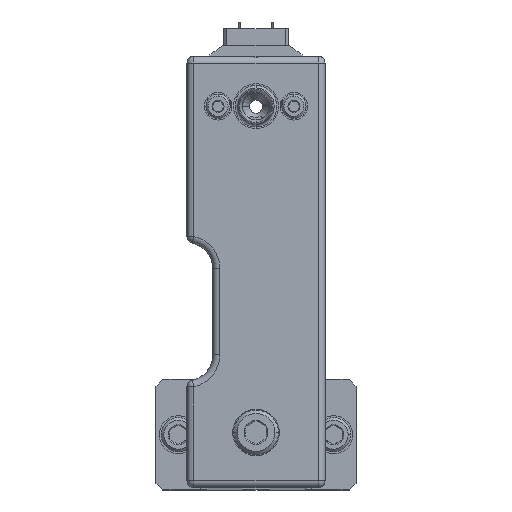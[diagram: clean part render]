
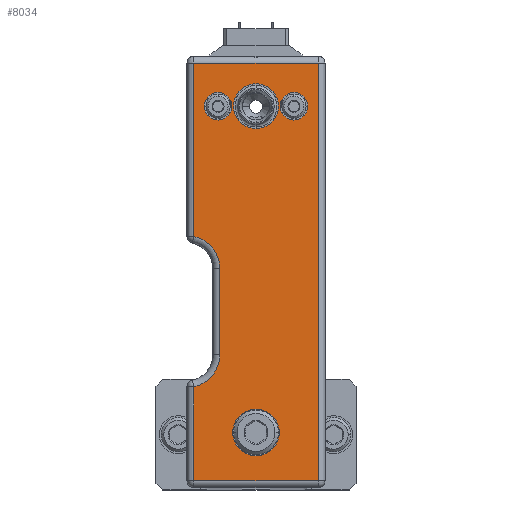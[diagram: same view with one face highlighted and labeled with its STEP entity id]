
A CAD part, top view. The second image highlights one B-rep face of the part: STEP entity #8034.
In plain terms, the highlighted planar face has unit normal (0, 0, 1).
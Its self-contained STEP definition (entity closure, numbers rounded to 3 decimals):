
#18 = CIRCLE ( 'NONE', #23840, 6.5 ) ;
#45 = CARTESIAN_POINT ( 'NONE',  ( 0., 94.5, 383. ) ) ;
#153 = CARTESIAN_POINT ( 'NONE',  ( -7., 94.5, 383. ) ) ;
#196 = ORIENTED_EDGE ( 'NONE', *, *, #26250, .T. ) ;
#209 = DIRECTION ( 'NONE',  ( 1., 0., 0. ) ) ;
#421 = VECTOR ( 'NONE', #14847, 1000. ) ;
#1268 = AXIS2_PLACEMENT_3D ( 'NONE', #11512, #9906, #27302 ) ;
#1527 = ORIENTED_EDGE ( 'NONE', *, *, #28371, .F. ) ;
#1582 = DIRECTION ( 'NONE',  ( -1., 0., 0. ) ) ;
#1809 = VECTOR ( 'NONE', #20266, 1000. ) ;
#2000 = AXIS2_PLACEMENT_3D ( 'NONE', #7776, #20946, #1582 ) ;
#2093 = DIRECTION ( 'NONE',  ( 0., 0., 1. ) ) ;
#2546 = AXIS2_PLACEMENT_3D ( 'NONE', #16638, #5724, #21313 ) ;
#2823 = CARTESIAN_POINT ( 'NONE',  ( 18., 107., 383. ) ) ;
#3057 = VERTEX_POINT ( 'NONE', #6413 ) ;
#3065 = DIRECTION ( 'NONE',  ( 1., 0., 0. ) ) ;
#3100 = LINE ( 'NONE', #5417, #22885 ) ;
#3462 = EDGE_CURVE ( 'NONE', #3057, #20208, #11802, .T. ) ;
#3674 = DIRECTION ( 'NONE',  ( 1., 0., 0. ) ) ;
#4100 = LINE ( 'NONE', #12981, #5490 ) ;
#4256 = CARTESIAN_POINT ( 'NONE',  ( 18., -14., 383. ) ) ;
#4424 = CARTESIAN_POINT ( 'NONE',  ( 7., 94.5, 383. ) ) ;
#4761 = DIRECTION ( 'NONE',  ( 0., 0., 1. ) ) ;
#4784 = VERTEX_POINT ( 'NONE', #8734 ) ;
#4955 = EDGE_CURVE ( 'NONE', #6222, #26605, #3100, .T. ) ;
#5113 = DIRECTION ( 'NONE',  ( 0., 0., 1. ) ) ;
#5131 = CARTESIAN_POINT ( 'NONE',  ( 15., 94.5, 383. ) ) ;
#5188 = VERTEX_POINT ( 'NONE', #9239 ) ;
#5254 = ORIENTED_EDGE ( 'NONE', *, *, #6574, .T. ) ;
#5417 = CARTESIAN_POINT ( 'NONE',  ( 18., 46.5, 383. ) ) ;
#5490 = VECTOR ( 'NONE', #21701, 1000. ) ;
#5491 = CARTESIAN_POINT ( 'NONE',  ( -10.5, 22.5, 383. ) ) ;
#5600 = FACE_BOUND ( 'NONE', #9965, .T. ) ;
#5724 = DIRECTION ( 'NONE',  ( 0., 0., -1. ) ) ;
#5843 = CARTESIAN_POINT ( 'NONE',  ( -18., 107., 383. ) ) ;
#6026 = FACE_BOUND ( 'NONE', #20411, .T. ) ;
#6132 = VERTEX_POINT ( 'NONE', #5843 ) ;
#6222 = VERTEX_POINT ( 'NONE', #4256 ) ;
#6312 = EDGE_CURVE ( 'NONE', #4784, #3057, #19150, .T. ) ;
#6413 = CARTESIAN_POINT ( 'NONE',  ( -10.5, 47.5, 383. ) ) ;
#6574 = EDGE_CURVE ( 'NONE', #8045, #6222, #24360, .T. ) ;
#6662 = EDGE_CURVE ( 'NONE', #25578, #26096, #10442, .T. ) ;
#6700 = DIRECTION ( 'NONE',  ( 0., 0., -1. ) ) ;
#6704 = LINE ( 'NONE', #11555, #25850 ) ;
#7103 = CARTESIAN_POINT ( 'NONE',  ( 0., -14., 383. ) ) ;
#7262 = CARTESIAN_POINT ( 'NONE',  ( 0., 0., 383. ) ) ;
#7776 = CARTESIAN_POINT ( 'NONE',  ( -20., 22.5, 383. ) ) ;
#8034 = ADVANCED_FACE ( 'NONE', ( #8153, #5600, #25688, #6026, #14754 ), #27540, .F. ) ;
#8045 = VERTEX_POINT ( 'NONE', #8727 ) ;
#8113 = ORIENTED_EDGE ( 'NONE', *, *, #23585, .F. ) ;
#8153 = FACE_OUTER_BOUND ( 'NONE', #27118, .T. ) ;
#8168 = CARTESIAN_POINT ( 'NONE',  ( -6.5, 94.5, 383. ) ) ;
#8288 = VERTEX_POINT ( 'NONE', #11435 ) ;
#8398 = LINE ( 'NONE', #12707, #421 ) ;
#8648 = DIRECTION ( 'NONE',  ( 1., 0., 0. ) ) ;
#8727 = CARTESIAN_POINT ( 'NONE',  ( -18., -14., 383. ) ) ;
#8734 = CARTESIAN_POINT ( 'NONE',  ( -18., 56.787, 383. ) ) ;
#8802 = CARTESIAN_POINT ( 'NONE',  ( 6.5, 94.5, 383. ) ) ;
#9239 = CARTESIAN_POINT ( 'NONE',  ( -15., 94.5, 383. ) ) ;
#9405 = DIRECTION ( 'NONE',  ( 0., 1., 0. ) ) ;
#9430 = AXIS2_PLACEMENT_3D ( 'NONE', #21712, #2093, #10835 ) ;
#9502 = AXIS2_PLACEMENT_3D ( 'NONE', #21714, #6700, #10700 ) ;
#9684 = DIRECTION ( 'NONE',  ( 1., 0., 0. ) ) ;
#9906 = DIRECTION ( 'NONE',  ( 0., 0., 1. ) ) ;
#9965 = EDGE_LOOP ( 'NONE', ( #1527, #19898 ) ) ;
#10407 = EDGE_CURVE ( 'NONE', #6132, #4784, #8398, .T. ) ;
#10442 = CIRCLE ( 'NONE', #14128, 6.5 ) ;
#10447 = EDGE_CURVE ( 'NONE', #26605, #6132, #4100, .T. ) ;
#10700 = DIRECTION ( 'NONE',  ( -1., 0., 0. ) ) ;
#10835 = DIRECTION ( 'NONE',  ( 1., 0., 0. ) ) ;
#11038 = VERTEX_POINT ( 'NONE', #5131 ) ;
#11108 = ORIENTED_EDGE ( 'NONE', *, *, #15947, .T. ) ;
#11435 = CARTESIAN_POINT ( 'NONE',  ( -6.75, 0., 383. ) ) ;
#11512 = CARTESIAN_POINT ( 'NONE',  ( 11., 94.5, 383. ) ) ;
#11520 = CARTESIAN_POINT ( 'NONE',  ( -10.5, 46.5, 383. ) ) ;
#11555 = CARTESIAN_POINT ( 'NONE',  ( -18., 46.5, 383. ) ) ;
#11594 = VERTEX_POINT ( 'NONE', #153 ) ;
#11736 = VERTEX_POINT ( 'NONE', #21325 ) ;
#11802 = LINE ( 'NONE', #11520, #1809 ) ;
#12547 = CIRCLE ( 'NONE', #13446, 6.75 ) ;
#12707 = CARTESIAN_POINT ( 'NONE',  ( -18., 46.5, 383. ) ) ;
#12800 = EDGE_CURVE ( 'NONE', #5188, #11594, #13555, .T. ) ;
#12981 = CARTESIAN_POINT ( 'NONE',  ( 0., 107., 383. ) ) ;
#13247 = EDGE_CURVE ( 'NONE', #21246, #11038, #26048, .T. ) ;
#13446 = AXIS2_PLACEMENT_3D ( 'NONE', #17888, #17735, #20439 ) ;
#13555 = CIRCLE ( 'NONE', #21787, 4. ) ;
#14128 = AXIS2_PLACEMENT_3D ( 'NONE', #20571, #23034, #3065 ) ;
#14376 = CIRCLE ( 'NONE', #2000, 9.5 ) ;
#14705 = VERTEX_POINT ( 'NONE', #22936 ) ;
#14754 = FACE_BOUND ( 'NONE', #23523, .T. ) ;
#14847 = DIRECTION ( 'NONE',  ( 0., -1., 0. ) ) ;
#15141 = CIRCLE ( 'NONE', #15598, 6.75 ) ;
#15598 = AXIS2_PLACEMENT_3D ( 'NONE', #7262, #5113, #9684 ) ;
#15914 = EDGE_CURVE ( 'NONE', #11736, #8288, #12547, .T. ) ;
#15947 = EDGE_CURVE ( 'NONE', #14705, #8045, #6704, .T. ) ;
#16638 = CARTESIAN_POINT ( 'NONE',  ( 0., 46.5, 383. ) ) ;
#16768 = ORIENTED_EDGE ( 'NONE', *, *, #3462, .T. ) ;
#16868 = DIRECTION ( 'NONE',  ( 0., 0., 1. ) ) ;
#17293 = ORIENTED_EDGE ( 'NONE', *, *, #4955, .T. ) ;
#17603 = CARTESIAN_POINT ( 'NONE',  ( 11., 94.5, 383. ) ) ;
#17735 = DIRECTION ( 'NONE',  ( 0., 0., 1. ) ) ;
#17888 = CARTESIAN_POINT ( 'NONE',  ( 0., 0., 383. ) ) ;
#18418 = CIRCLE ( 'NONE', #23465, 4. ) ;
#19150 = CIRCLE ( 'NONE', #9502, 9.5 ) ;
#19175 = VECTOR ( 'NONE', #209, 1000. ) ;
#19280 = EDGE_CURVE ( 'NONE', #26096, #25578, #18, .T. ) ;
#19898 = ORIENTED_EDGE ( 'NONE', *, *, #12800, .F. ) ;
#20208 = VERTEX_POINT ( 'NONE', #5491 ) ;
#20266 = DIRECTION ( 'NONE',  ( 0., -1., 0. ) ) ;
#20411 = EDGE_LOOP ( 'NONE', ( #22621, #26257 ) ) ;
#20439 = DIRECTION ( 'NONE',  ( 1., 0., 0. ) ) ;
#20571 = CARTESIAN_POINT ( 'NONE',  ( 0., 94.5, 383. ) ) ;
#20878 = ORIENTED_EDGE ( 'NONE', *, *, #6662, .F. ) ;
#20946 = DIRECTION ( 'NONE',  ( 0., 0., -1. ) ) ;
#21246 = VERTEX_POINT ( 'NONE', #4424 ) ;
#21313 = DIRECTION ( 'NONE',  ( -1., 0., 0. ) ) ;
#21325 = CARTESIAN_POINT ( 'NONE',  ( 6.75, 0., 383. ) ) ;
#21701 = DIRECTION ( 'NONE',  ( -1., 0., 0. ) ) ;
#21712 = CARTESIAN_POINT ( 'NONE',  ( -11., 94.5, 383. ) ) ;
#21714 = CARTESIAN_POINT ( 'NONE',  ( -20., 47.5, 383. ) ) ;
#21787 = AXIS2_PLACEMENT_3D ( 'NONE', #28076, #16868, #3674 ) ;
#21918 = ORIENTED_EDGE ( 'NONE', *, *, #6312, .T. ) ;
#22018 = DIRECTION ( 'NONE',  ( 0., -1., 0. ) ) ;
#22450 = DIRECTION ( 'NONE',  ( 1., 0., 0. ) ) ;
#22621 = ORIENTED_EDGE ( 'NONE', *, *, #15914, .F. ) ;
#22733 = EDGE_CURVE ( 'NONE', #8288, #11736, #15141, .T. ) ;
#22885 = VECTOR ( 'NONE', #9405, 1000. ) ;
#22936 = CARTESIAN_POINT ( 'NONE',  ( -18., 13.213, 383. ) ) ;
#23034 = DIRECTION ( 'NONE',  ( 0., 0., 1. ) ) ;
#23311 = ORIENTED_EDGE ( 'NONE', *, *, #19280, .F. ) ;
#23465 = AXIS2_PLACEMENT_3D ( 'NONE', #17603, #26921, #22450 ) ;
#23523 = EDGE_LOOP ( 'NONE', ( #20878, #23311 ) ) ;
#23585 = EDGE_CURVE ( 'NONE', #11038, #21246, #18418, .T. ) ;
#23840 = AXIS2_PLACEMENT_3D ( 'NONE', #45, #4761, #8648 ) ;
#24360 = LINE ( 'NONE', #7103, #19175 ) ;
#24536 = ORIENTED_EDGE ( 'NONE', *, *, #10447, .T. ) ;
#24591 = CIRCLE ( 'NONE', #9430, 4. ) ;
#24682 = ORIENTED_EDGE ( 'NONE', *, *, #10407, .T. ) ;
#25092 = EDGE_LOOP ( 'NONE', ( #8113, #25713 ) ) ;
#25578 = VERTEX_POINT ( 'NONE', #8802 ) ;
#25688 = FACE_BOUND ( 'NONE', #25092, .T. ) ;
#25713 = ORIENTED_EDGE ( 'NONE', *, *, #13247, .F. ) ;
#25850 = VECTOR ( 'NONE', #22018, 1000. ) ;
#26048 = CIRCLE ( 'NONE', #1268, 4. ) ;
#26096 = VERTEX_POINT ( 'NONE', #8168 ) ;
#26250 = EDGE_CURVE ( 'NONE', #20208, #14705, #14376, .T. ) ;
#26257 = ORIENTED_EDGE ( 'NONE', *, *, #22733, .F. ) ;
#26605 = VERTEX_POINT ( 'NONE', #2823 ) ;
#26921 = DIRECTION ( 'NONE',  ( 0., 0., 1. ) ) ;
#27118 = EDGE_LOOP ( 'NONE', ( #196, #11108, #5254, #17293, #24536, #24682, #21918, #16768 ) ) ;
#27302 = DIRECTION ( 'NONE',  ( 1., 0., 0. ) ) ;
#27540 = PLANE ( 'NONE',  #2546 ) ;
#28076 = CARTESIAN_POINT ( 'NONE',  ( -11., 94.5, 383. ) ) ;
#28371 = EDGE_CURVE ( 'NONE', #11594, #5188, #24591, .T. ) ;
